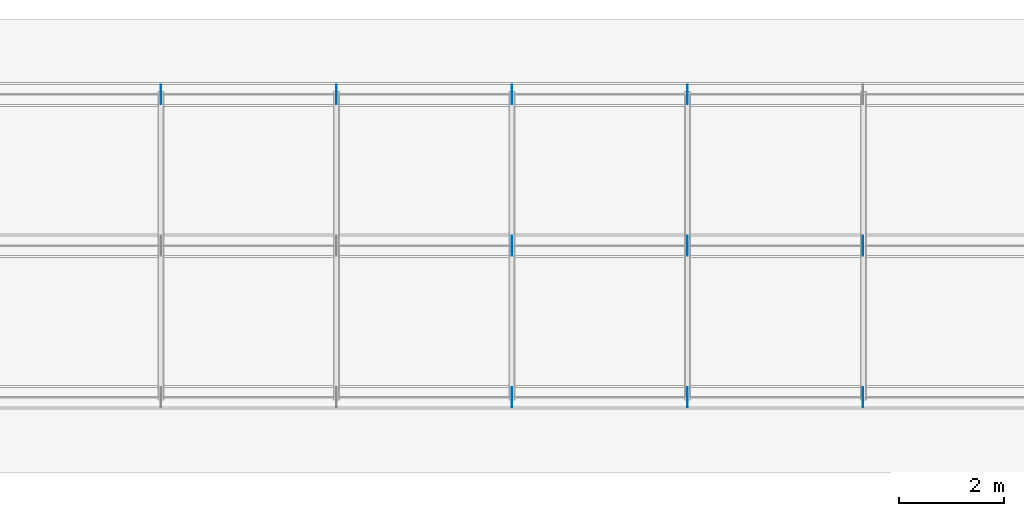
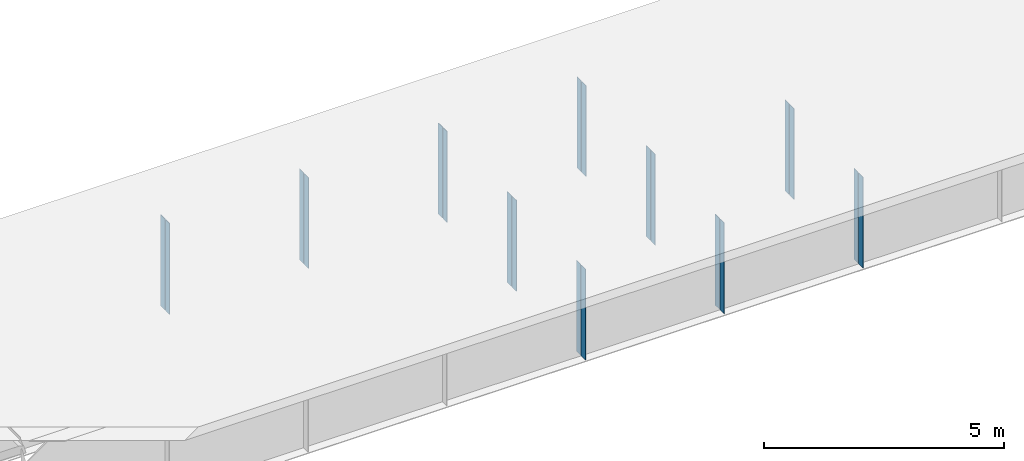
# One storey, part 11 of 12: 20 plates.
"""IFC4 building model written with IfcOpenShell, lengths in metres."""

from ifc_helpers import new_model, si_unit, frame, origin, origin_with_axes, origin_2d_with_axis, place, context, subcontext, project, spatial, rectangle, extrude, element, save


model = new_model("IFC4")

# Units and contexts
model_context = context("Model", 3, precision=1e-05, world=origin())
body_context = subcontext(model_context, "Body", "Model", "MODEL_VIEW")
ifc_project = project(units=[si_unit("LENGTHUNIT", "METRE"), si_unit("AREAUNIT", "SQUARE_METRE"), si_unit("VOLUMEUNIT", "CUBIC_METRE"), si_unit("PLANEANGLEUNIT", "RADIAN")], contexts=[model_context])

# Site, building, storey
site_placement = place(None, origin_with_axes())
site = spatial("IfcSite", under=ifc_project, at=site_placement, Name="Default Site")
building_placement = place(site_placement, origin_with_axes())
building = spatial("IfcBuilding", under=site, at=building_placement, Name="Bridge Structure")
storey_placement = place(building_placement, origin_with_axes())
storey = spatial("IfcBuildingStorey", under=building, at=storey_placement, Name="Superstructure")

# Plates
for number, where, z_axis, x_axis, name in (
    (1, (26.664, -2.77625, -1.155), (0.0, 0.0, 1.0), (1.0, 0.0, 0.0), "Intermediate Stiffener 1"),
    (2, (26.664, -2.97375, -1.155), (0.0, 0.0, 1.0), (1.0, 0.0, 0.0), "Intermediate Stiffener 1"),
    (3, (29.997, -2.77625, -1.155), (0.0, 0.0, 1.0), (1.0, 0.0, 0.0), "Intermediate Stiffener 1"),
    (4, (29.997, -2.97375, -1.155), (0.0, 0.0, 1.0), (1.0, 0.0, 0.0), "Intermediate Stiffener 1"),
    (5, (33.33, -2.77625, -1.155), (0.0, 0.0, 1.0), (1.0, 0.0, 0.0), "Intermediate Stiffener 1"),
    (6, (33.33, -2.97375, -1.155), (0.0, 0.0, 1.0), (1.0, 0.0, 0.0), "Intermediate Stiffener 1"),
    (7, (26.664, 0.09875, -1.155), (0.0, 0.0, 1.0), (1.0, 0.0, 0.0), "Intermediate Stiffener 2"),
    (8, (26.664, -0.09875, -1.155), (0.0, 0.0, 1.0), (1.0, 0.0, 0.0), "Intermediate Stiffener 2"),
    (9, (29.997, 0.09875, -1.155), (0.0, 0.0, 1.0), (1.0, 0.0, 0.0), "Intermediate Stiffener 2"),
    (10, (29.997, -0.09875, -1.155), (0.0, 0.0, 1.0), (1.0, 0.0, 0.0), "Intermediate Stiffener 2"),
    (11, (33.33, 0.09875, -1.155), (0.0, 0.0, 1.0), (1.0, 0.0, 0.0), "Intermediate Stiffener 2"),
    (12, (33.33, -0.09875, -1.155), (0.0, 0.0, 1.0), (1.0, 0.0, 0.0), "Intermediate Stiffener 2"),
    (13, (19.998, 2.97375, -1.155), (0.0, 0.0, 1.0), (1.0, 0.0, 0.0), "Intermediate Stiffener 3"),
    (14, (19.998, 2.77625, -1.155), (0.0, 0.0, 1.0), (1.0, 0.0, 0.0), "Intermediate Stiffener 3"),
    (15, (23.331, 2.97375, -1.155), (0.0, 0.0, 1.0), (1.0, 0.0, 0.0), "Intermediate Stiffener 3"),
    (16, (23.331, 2.77625, -1.155), (0.0, 0.0, 1.0), (1.0, 0.0, 0.0), "Intermediate Stiffener 3"),
    (17, (26.664, 2.97375, -1.155), (0.0, 0.0, 1.0), (1.0, 0.0, 0.0), "Intermediate Stiffener 3"),
    (18, (26.664, 2.77625, -1.155), (0.0, 0.0, 1.0), (1.0, 0.0, 0.0), "Intermediate Stiffener 3"),
    (19, (29.997, 2.97375, -1.155), (0.0, 0.0, 1.0), (1.0, 0.0, 0.0), "Intermediate Stiffener 3"),
    (20, (29.997, 2.77625, -1.155), (0.0, 0.0, 1.0), (1.0, 0.0, 0.0), "Intermediate Stiffener 3"),
):
    element("IfcPlate", number, at=place(storey_placement, frame(where, z_axis=z_axis, x_axis=x_axis)), inside=storey, Name=name, context=body_context, shape_type="SweptSolid", body=[
        extrude(rectangle(XDim=0.012, YDim=0.1775, at=origin_2d_with_axis()), origin_with_axes(), (0.0, 0.0, 1.0), 2.31),
    ])

save(model, "model.ifc")
